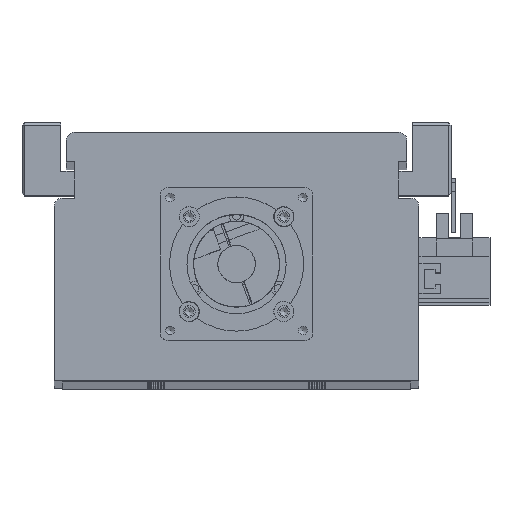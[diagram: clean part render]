
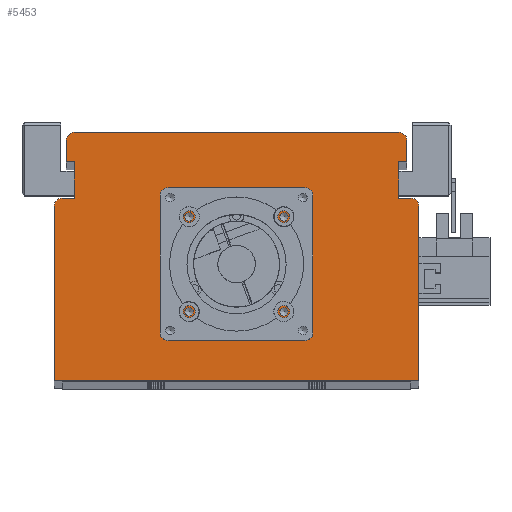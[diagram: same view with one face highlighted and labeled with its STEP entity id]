
A CAD part, top view. The second image highlights one B-rep face of the part: STEP entity #5453.
In plain terms, the highlighted planar face has unit normal (0, 0, 1).
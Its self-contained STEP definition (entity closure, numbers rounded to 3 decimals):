
#4011=CARTESIAN_POINT('',(19.321,61.5,1645.));
#4012=VERTEX_POINT('',#4011);
#4013=CARTESIAN_POINT('',(17.7,61.5,1645.));
#4014=DIRECTION('',(0.0,0.0,-1.0));
#4015=DIRECTION('',(1.0,0.0,0.0));
#4016=AXIS2_PLACEMENT_3D('',#4013,#4014,#4015);
#4017=CIRCLE('',#4016,1.621);
#4018=EDGE_CURVE('',#4012,#4012,#4017,.T.);
#4090=CARTESIAN_POINT('',(19.321,26.1,1645.));
#4091=VERTEX_POINT('',#4090);
#4092=CARTESIAN_POINT('',(17.7,26.1,1645.));
#4093=DIRECTION('',(0.0,0.0,-1.0));
#4094=DIRECTION('',(1.0,0.0,0.0));
#4095=AXIS2_PLACEMENT_3D('',#4092,#4093,#4094);
#4096=CIRCLE('',#4095,1.621);
#4097=EDGE_CURVE('',#4091,#4091,#4096,.T.);
#4169=CARTESIAN_POINT('',(-16.079,26.1,1645.));
#4170=VERTEX_POINT('',#4169);
#4171=CARTESIAN_POINT('',(-17.7,26.1,1645.));
#4172=DIRECTION('',(0.0,0.0,-1.0));
#4173=DIRECTION('',(1.0,0.0,0.0));
#4174=AXIS2_PLACEMENT_3D('',#4171,#4172,#4173);
#4175=CIRCLE('',#4174,1.621);
#4176=EDGE_CURVE('',#4170,#4170,#4175,.T.);
#4248=CARTESIAN_POINT('',(-16.079,61.5,1645.));
#4249=VERTEX_POINT('',#4248);
#4250=CARTESIAN_POINT('',(-17.7,61.5,1645.));
#4251=DIRECTION('',(0.0,0.0,-1.0));
#4252=DIRECTION('',(1.0,0.0,0.0));
#4253=AXIS2_PLACEMENT_3D('',#4250,#4251,#4252);
#4254=CIRCLE('',#4253,1.621);
#4255=EDGE_CURVE('',#4249,#4249,#4254,.T.);
#4289=CARTESIAN_POINT('',(26.5,43.8,1645.));
#4290=VERTEX_POINT('',#4289);
#4291=CARTESIAN_POINT('',(24.5,43.8,1645.));
#4292=DIRECTION('',(0.0,0.0,-1.0));
#4293=DIRECTION('',(1.0,0.0,0.0));
#4294=AXIS2_PLACEMENT_3D('',#4291,#4292,#4293);
#4295=CIRCLE('',#4294,2.0);
#4296=EDGE_CURVE('',#4290,#4290,#4295,.T.);
#4338=CARTESIAN_POINT('',(-22.5,43.8,1645.));
#4339=VERTEX_POINT('',#4338);
#4340=CARTESIAN_POINT('',(-24.5,43.8,1645.));
#4341=DIRECTION('',(0.0,0.0,-1.0));
#4342=DIRECTION('',(1.0,0.0,0.0));
#4343=AXIS2_PLACEMENT_3D('',#4340,#4341,#4342);
#4344=CIRCLE('',#4343,2.0);
#4345=EDGE_CURVE('',#4339,#4339,#4344,.T.);
#5269=CARTESIAN_POINT('',(21.05,43.8,1645.));
#5270=VERTEX_POINT('',#5269);
#5271=CARTESIAN_POINT('',(0.0,43.8,1645.));
#5272=DIRECTION('',(0.0,0.0,-1.0));
#5273=DIRECTION('',(-1.0,0.0,0.0));
#5274=AXIS2_PLACEMENT_3D('',#5271,#5272,#5273);
#5275=CIRCLE('',#5274,21.05);
#5276=EDGE_CURVE('',#5270,#5270,#5275,.T.);
#5293=CARTESIAN_POINT('',(0.,29.533,1645.));
#5294=DIRECTION('',(0.0,0.0,1.0));
#5295=DIRECTION('',(1.0,0.0,0.0));
#5296=AXIS2_PLACEMENT_3D('',#5293,#5294,#5295);
#5297=PLANE('',#5296);
#5298=CARTESIAN_POINT('',(-65.,68.5,1645.));
#5299=VERTEX_POINT('',#5298);
#5300=CARTESIAN_POINT('',(-60.5,68.5,1645.));
#5301=VERTEX_POINT('',#5300);
#5302=CARTESIAN_POINT('',(-65.,68.5,1645.));
#5303=DIRECTION('',(1.0,0.0,0.));
#5304=VECTOR('',#5303,4.5);
#5305=LINE('',#5302,#5304);
#5306=EDGE_CURVE('',#5299,#5301,#5305,.T.);
#5307=ORIENTED_EDGE('',*,*,#5306,.F.);
#5308=CARTESIAN_POINT('',(-68.,65.5,1645.));
#5309=VERTEX_POINT('',#5308);
#5310=CARTESIAN_POINT('',(-65.,65.5,1645.0));
#5311=DIRECTION('',(0.0,0.0,-1.0));
#5312=DIRECTION('',(0.0,1.0,0.0));
#5313=AXIS2_PLACEMENT_3D('',#5310,#5311,#5312);
#5314=CIRCLE('',#5313,3.);
#5315=EDGE_CURVE('',#5309,#5299,#5314,.T.);
#5316=ORIENTED_EDGE('',*,*,#5315,.F.);
#5317=CARTESIAN_POINT('',(-68.0,0.5,1645.));
#5318=VERTEX_POINT('',#5317);
#5319=CARTESIAN_POINT('',(-68.0,0.5,1645.));
#5320=DIRECTION('',(0.0,1.0,0.0));
#5321=VECTOR('',#5320,65.0);
#5322=LINE('',#5319,#5321);
#5323=EDGE_CURVE('',#5318,#5309,#5322,.T.);
#5324=ORIENTED_EDGE('',*,*,#5323,.F.);
#5325=CARTESIAN_POINT('',(68.0,0.5,1645.));
#5326=VERTEX_POINT('',#5325);
#5327=CARTESIAN_POINT('',(68.0,0.5,1645.));
#5328=DIRECTION('',(-1.0,0.0,0.0));
#5329=VECTOR('',#5328,136.0);
#5330=LINE('',#5327,#5329);
#5331=EDGE_CURVE('',#5326,#5318,#5330,.T.);
#5332=ORIENTED_EDGE('',*,*,#5331,.F.);
#5333=CARTESIAN_POINT('',(68.0,65.5,1645.));
#5334=VERTEX_POINT('',#5333);
#5335=CARTESIAN_POINT('',(68.0,65.5,1645.));
#5336=DIRECTION('',(0.0,-1.0,0.0));
#5337=VECTOR('',#5336,65.0);
#5338=LINE('',#5335,#5337);
#5339=EDGE_CURVE('',#5334,#5326,#5338,.T.);
#5340=ORIENTED_EDGE('',*,*,#5339,.F.);
#5341=CARTESIAN_POINT('',(65.,68.5,1645.));
#5342=VERTEX_POINT('',#5341);
#5343=CARTESIAN_POINT('',(65.,65.5,1645.0));
#5344=DIRECTION('',(0.0,0.0,-1.0));
#5345=DIRECTION('',(1.0,0.0,0.0));
#5346=AXIS2_PLACEMENT_3D('',#5343,#5344,#5345);
#5347=CIRCLE('',#5346,3.);
#5348=EDGE_CURVE('',#5342,#5334,#5347,.T.);
#5349=ORIENTED_EDGE('',*,*,#5348,.F.);
#5350=CARTESIAN_POINT('',(60.5,68.5,1645.));
#5351=VERTEX_POINT('',#5350);
#5352=CARTESIAN_POINT('',(60.5,68.5,1645.));
#5353=DIRECTION('',(1.0,0.0,0.));
#5354=VECTOR('',#5353,4.5);
#5355=LINE('',#5352,#5354);
#5356=EDGE_CURVE('',#5351,#5342,#5355,.T.);
#5357=ORIENTED_EDGE('',*,*,#5356,.F.);
#5358=CARTESIAN_POINT('',(60.5,82.,1645.0));
#5359=VERTEX_POINT('',#5358);
#5360=CARTESIAN_POINT('',(60.5,82.,1645.0));
#5361=DIRECTION('',(0.0,-1.0,0.0));
#5362=VECTOR('',#5361,13.5);
#5363=LINE('',#5360,#5362);
#5364=EDGE_CURVE('',#5359,#5351,#5363,.T.);
#5365=ORIENTED_EDGE('',*,*,#5364,.F.);
#5366=CARTESIAN_POINT('',(63.5,82.,1645.0));
#5367=VERTEX_POINT('',#5366);
#5368=CARTESIAN_POINT('',(63.5,82.,1645.0));
#5369=DIRECTION('',(-1.0,0.0,0.0));
#5370=VECTOR('',#5369,3.0);
#5371=LINE('',#5368,#5370);
#5372=EDGE_CURVE('',#5367,#5359,#5371,.T.);
#5373=ORIENTED_EDGE('',*,*,#5372,.F.);
#5374=CARTESIAN_POINT('',(63.5,90.0,1645.0));
#5375=VERTEX_POINT('',#5374);
#5376=CARTESIAN_POINT('',(63.5,90.0,1645.0));
#5377=DIRECTION('',(0.0,-1.0,0.0));
#5378=VECTOR('',#5377,8.);
#5379=LINE('',#5376,#5378);
#5380=EDGE_CURVE('',#5375,#5367,#5379,.T.);
#5381=ORIENTED_EDGE('',*,*,#5380,.F.);
#5382=CARTESIAN_POINT('',(60.5,93.,1645.0));
#5383=VERTEX_POINT('',#5382);
#5384=CARTESIAN_POINT('',(60.5,90.0,1645.0));
#5385=DIRECTION('',(0.0,0.0,-1.0));
#5386=DIRECTION('',(1.0,0.0,0.0));
#5387=AXIS2_PLACEMENT_3D('',#5384,#5385,#5386);
#5388=CIRCLE('',#5387,3.);
#5389=EDGE_CURVE('',#5383,#5375,#5388,.T.);
#5390=ORIENTED_EDGE('',*,*,#5389,.F.);
#5391=CARTESIAN_POINT('',(-60.5,93.0,1645.0));
#5392=VERTEX_POINT('',#5391);
#5393=CARTESIAN_POINT('',(-60.5,93.0,1645.0));
#5394=DIRECTION('',(1.0,0.0,0.0));
#5395=VECTOR('',#5394,121.0);
#5396=LINE('',#5393,#5395);
#5397=EDGE_CURVE('',#5392,#5383,#5396,.T.);
#5398=ORIENTED_EDGE('',*,*,#5397,.F.);
#5399=CARTESIAN_POINT('',(-63.5,90.0,1645.0));
#5400=VERTEX_POINT('',#5399);
#5401=CARTESIAN_POINT('',(-60.5,90.0,1645.0));
#5402=DIRECTION('',(0.0,0.0,-1.0));
#5403=DIRECTION('',(0.0,1.0,0.0));
#5404=AXIS2_PLACEMENT_3D('',#5401,#5402,#5403);
#5405=CIRCLE('',#5404,3.);
#5406=EDGE_CURVE('',#5400,#5392,#5405,.T.);
#5407=ORIENTED_EDGE('',*,*,#5406,.F.);
#5408=CARTESIAN_POINT('',(-63.5,82.,1645.0));
#5409=VERTEX_POINT('',#5408);
#5410=CARTESIAN_POINT('',(-63.5,82.,1645.0));
#5411=DIRECTION('',(0.0,1.0,0.0));
#5412=VECTOR('',#5411,8.);
#5413=LINE('',#5410,#5412);
#5414=EDGE_CURVE('',#5409,#5400,#5413,.T.);
#5415=ORIENTED_EDGE('',*,*,#5414,.F.);
#5416=CARTESIAN_POINT('',(-60.5,82.,1645.0));
#5417=VERTEX_POINT('',#5416);
#5418=CARTESIAN_POINT('',(-60.5,82.,1645.0));
#5419=DIRECTION('',(-1.0,0.0,0.0));
#5420=VECTOR('',#5419,3.);
#5421=LINE('',#5418,#5420);
#5422=EDGE_CURVE('',#5417,#5409,#5421,.T.);
#5423=ORIENTED_EDGE('',*,*,#5422,.F.);
#5424=CARTESIAN_POINT('',(-60.5,68.5,1645.));
#5425=DIRECTION('',(0.0,1.0,0.0));
#5426=VECTOR('',#5425,13.5);
#5427=LINE('',#5424,#5426);
#5428=EDGE_CURVE('',#5301,#5417,#5427,.T.);
#5429=ORIENTED_EDGE('',*,*,#5428,.F.);
#5430=EDGE_LOOP('',(#5307,#5316,#5324,#5332,#5340,#5349,#5357,#5365,#5373,#5381,#5390,#5398,#5407,#5415,#5423,#5429));
#5431=FACE_OUTER_BOUND('',#5430,.T.);
#5432=ORIENTED_EDGE('',*,*,#4018,.T.);
#5433=EDGE_LOOP('',(#5432));
#5434=FACE_BOUND('',#5433,.T.);
#5435=ORIENTED_EDGE('',*,*,#4097,.T.);
#5436=EDGE_LOOP('',(#5435));
#5437=FACE_BOUND('',#5436,.T.);
#5438=ORIENTED_EDGE('',*,*,#4176,.T.);
#5439=EDGE_LOOP('',(#5438));
#5440=FACE_BOUND('',#5439,.T.);
#5441=ORIENTED_EDGE('',*,*,#4255,.T.);
#5442=EDGE_LOOP('',(#5441));
#5443=FACE_BOUND('',#5442,.T.);
#5444=ORIENTED_EDGE('',*,*,#4296,.T.);
#5445=EDGE_LOOP('',(#5444));
#5446=FACE_BOUND('',#5445,.T.);
#5447=ORIENTED_EDGE('',*,*,#4345,.T.);
#5448=EDGE_LOOP('',(#5447));
#5449=FACE_BOUND('',#5448,.T.);
#5450=ORIENTED_EDGE('',*,*,#5276,.T.);
#5451=EDGE_LOOP('',(#5450));
#5452=FACE_BOUND('',#5451,.T.);
#5453=ADVANCED_FACE('',(#5431,#5434,#5437,#5440,#5443,#5446,#5449,#5452),#5297,.T.);
